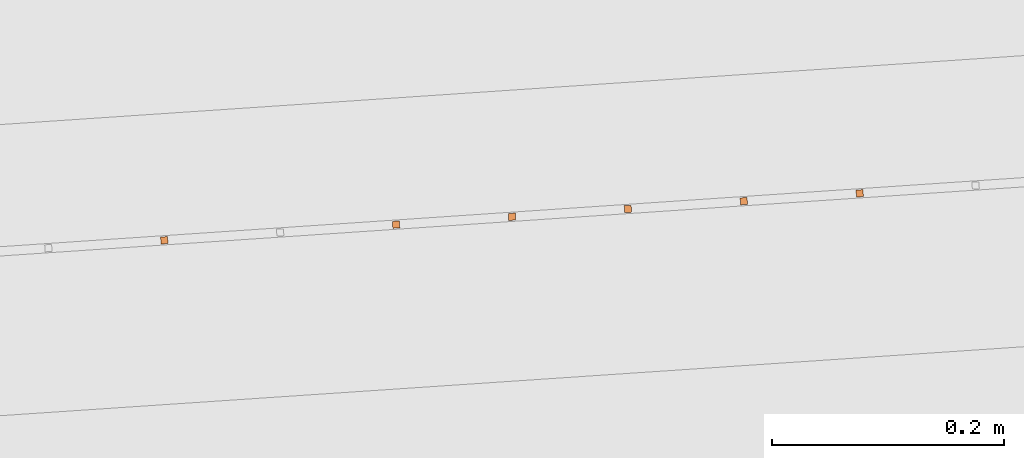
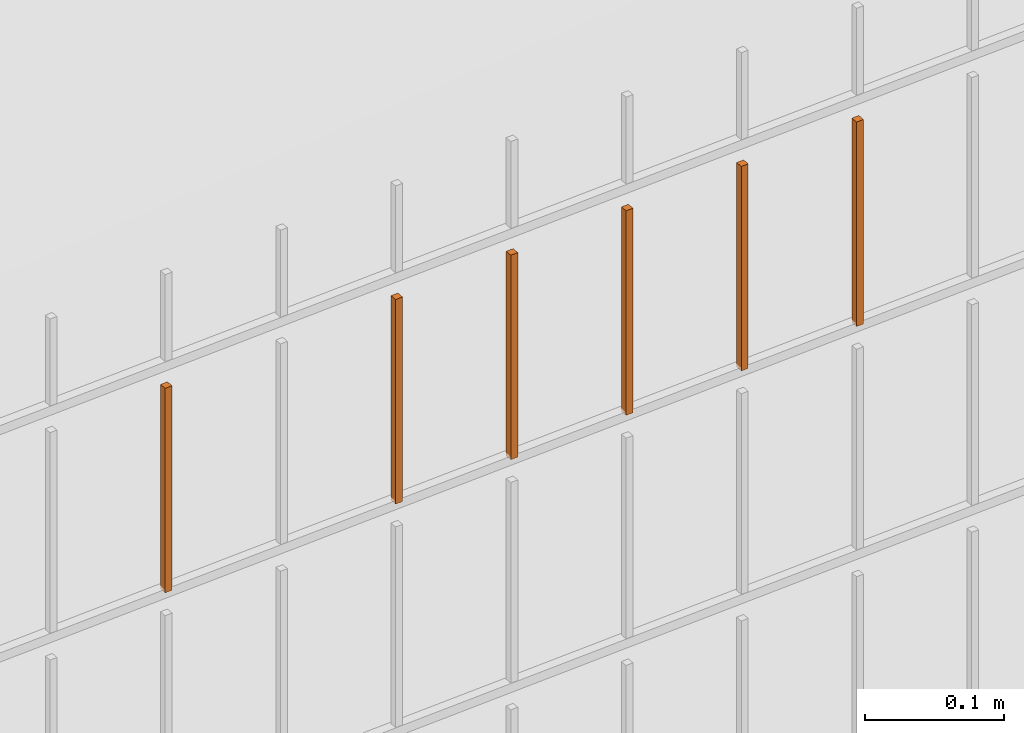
# One storey, part 273 of 1809: 6 proxies, 1 element without a shape of its own.
"""IFC2X3 building model written with IfcOpenShell, lengths in millimetres."""

import ifcopenshell
import ifcopenshell.guid

model = None  # the IFC model being written
_history = None  # IfcOwnerHistory: only IFC2X3 demands one
_inside = {}  # id of a spatial element -> (the spatial element, [elements in it])
_under = {}  # id of a project, library or spatial element -> (it, [spatial elements below it])
_declared = {}  # id of a project -> (the project, [libraries it declares])
_typed = {}  # id of a type object -> (the type object, [elements of that type])
_made_of = {}  # id of a material, layer set ... -> (it, [elements and type objects made of it])


def new_model(schema):
    """Start an empty IFC model of exactly this schema.

    Asked for "IFC4X3", IfcOpenShell would pick the latest addendum, in which some entities
    have other attributes; the version numbers below select the first issue.
    IFC2X3 requires an IfcOwnerHistory on every rooted entity: one is made here for all.
    """
    global model, _history
    if schema == "IFC4X3":
        model = ifcopenshell.file(schema_version=(4, 3, 0, 0))
    else:
        model = ifcopenshell.file(schema=schema)
    _inside.clear()
    _under.clear()
    _declared.clear()
    _typed.clear()
    _made_of.clear()
    _history = None
    if model.schema == "IFC2X3":
        org = make("IfcOrganization", Name="unknown")
        user = make(
            "IfcPersonAndOrganization",
            ThePerson=make("IfcPerson", FamilyName="unknown"),
            TheOrganization=org,
        )
        app = make(
            "IfcApplication",
            ApplicationDeveloper=org,
            Version="unknown",
            ApplicationFullName="unknown",
            ApplicationIdentifier="unknown",
        )
        _history = make(
            "IfcOwnerHistory",
            OwningUser=user,
            OwningApplication=app,
            ChangeAction="ADDED",
            CreationDate=0,
        )
    return model


def make(cls, **values):
    """One entity of the class cls with the attributes given. An attribute that is None is left unset."""
    return model.create_entity(
        cls, **{name: value for name, value in values.items() if value is not None}
    )


def entity(cls, *values):
    """Any entity or typed value of the class cls, its attributes in the order of the schema. None: left unset."""
    e = model.create_entity(cls)
    for i, value in enumerate(values):
        if value is not None:
            e[i] = value
    return e


def rooted(cls, **values):
    """An entity with a GlobalId (a new one), such as an element, a storey or a relation."""
    return make(cls, GlobalId=ifcopenshell.guid.new(), OwnerHistory=_history, **values)


def si_unit(unit_type, name, prefix=None):
    """IfcSIUnit, for example si_unit("LENGTHUNIT", "METRE", prefix="MILLI")."""
    return make("IfcSIUnit", UnitType=unit_type, Prefix=prefix, Name=name)


def converted_unit(unit_type, name, factor, base, dimensions=None, offset=None):
    """IfcConversionBasedUnit, such as the inch: factor (a typed value) times the base unit."""
    return make(
        "IfcConversionBasedUnit"
        if offset is None
        else "IfcConversionBasedUnitWithOffset",
        ConversionOffset=offset,
        Dimensions=None
        if dimensions is None
        else entity("IfcDimensionalExponents", *dimensions),
        UnitType=unit_type,
        Name=name,
        ConversionFactor=make(
            "IfcMeasureWithUnit", ValueComponent=factor, UnitComponent=base
        ),
    )


def derived_unit(unit_type, elements):
    """IfcDerivedUnit: a product of units, each with its exponent."""
    return make(
        "IfcDerivedUnit",
        Elements=[
            make("IfcDerivedUnitElement", Unit=unit, Exponent=power)
            for unit, power in elements
        ],
        UnitType=unit_type,
    )


def money_unit(currency):
    """IfcMonetaryUnit."""
    return make("IfcMonetaryUnit", Currency=currency)


def assignment(units):
    """IfcUnitAssignment: the units of a project."""
    return None if units is None else make("IfcUnitAssignment", Units=units)


def point(xyz):
    """IfcCartesianPoint."""
    return None if xyz is None else make("IfcCartesianPoint", Coordinates=xyz)


def direction(xyz):
    """IfcDirection."""
    return None if xyz is None else make("IfcDirection", DirectionRatios=xyz)


def frame(location, z_axis=None, x_axis=None):
    """IfcAxis2Placement3D, a coordinate frame: its origin and axes. An axis left out is left unset."""
    return make(
        "IfcAxis2Placement3D",
        Location=point(location),
        Axis=direction(z_axis),
        RefDirection=direction(x_axis),
    )


def origin_with_axes():
    """The frame at (0, 0, 0) with the z axis (0, 0, 1) and the x axis (1, 0, 0) written out."""
    return frame((0.0, 0.0, 0.0), z_axis=(0.0, 0.0, 1.0), x_axis=(1.0, 0.0, 0.0))


def place(relative_to, where):
    """IfcLocalPlacement: puts the frame where relative to a parent placement (None: the world)."""
    return make(
        "IfcLocalPlacement", PlacementRelTo=relative_to, RelativePlacement=where
    )


def context(
    kind, dimensions, precision=None, world=None, true_north=None, identifier=None
):
    """IfcGeometricRepresentationContext, for example the 3D "Model" context."""
    return make(
        "IfcGeometricRepresentationContext",
        ContextIdentifier=identifier,
        ContextType=kind,
        CoordinateSpaceDimension=dimensions,
        Precision=precision,
        WorldCoordinateSystem=world,
        TrueNorth=true_north,
    )


def subcontext(parent, identifier, kind, view, scale=None):
    """IfcGeometricRepresentationSubContext, for example "Body" below "Model"."""
    return make(
        "IfcGeometricRepresentationSubContext",
        ContextIdentifier=identifier,
        ContextType=kind,
        ParentContext=parent,
        TargetScale=scale,
        TargetView=view,
    )


def project(units=None, contexts=None):
    """IfcProject with its units and contexts."""
    return rooted(
        "IfcProject",
        Name="project",
        RepresentationContexts=contexts,
        UnitsInContext=assignment(units),
    )


def spatial(cls, under=None, at=None, **own):
    """A site, building, storey or space (cls), placed at a placement, below another one or the project."""
    s = rooted(cls, ObjectPlacement=at, **own)
    if under is not None:
        _under.setdefault(under.id(), (under, []))[1].append(s)
    return s


def faces_of(points, faces, orient=None, outer=None):
    """IfcFace entities. A face is a list of loops; a loop is a list of indices into points, from 0.

    orient and outer hold one flag for each loop. By default every Orientation is true, the
    first loop of a face is its IfcFaceOuterBound and the others are IfcFaceBound.
    """
    made = []
    for i, loops in enumerate(faces):
        bounds = []
        for j, loop in enumerate(loops):
            is_outer = j == 0 if outer is None else outer[i][j]
            bounds.append(
                make(
                    "IfcFaceOuterBound" if is_outer else "IfcFaceBound",
                    Bound=make("IfcPolyLoop", Polygon=[points[k] for k in loop]),
                    Orientation=True if orient is None else orient[i][j],
                )
            )
        made.append(make("IfcFace", Bounds=bounds))
    return made


def faceted_brep(points, faces, orient=None, outer=None, voids=None):
    """IfcFacetedBrep: a solid bounded by flat faces; with voids (closed shells), ...WithVoids."""
    shared = [point(p) for p in points]
    hull = make("IfcClosedShell", CfsFaces=faces_of(shared, faces, orient, outer))
    if voids is None:
        return make("IfcFacetedBrep", Outer=hull)
    return make(
        "IfcFacetedBrepWithVoids",
        Outer=hull,
        Voids=[
            make(cls, CfsFaces=faces_of(shared, fs, o, b)) for cls, fs, o, b in voids
        ],
    )


def shape(context_of_items, identifier, shape_type, items):
    """IfcShapeRepresentation: the items that make up one representation, for example the "Body"."""
    return make(
        "IfcShapeRepresentation",
        ContextOfItems=context_of_items,
        RepresentationIdentifier=identifier,
        RepresentationType=shape_type,
        Items=items,
    )


def source(mapping_origin, context_of_items, identifier, shape_type, items):
    """IfcRepresentationMap: a shape defined once, which mapped items show again and again."""
    return make(
        "IfcRepresentationMap",
        MappingOrigin=mapping_origin,
        MappedRepresentation=shape(context_of_items, identifier, shape_type, items),
    )


def transform(
    local_origin,
    x_axis=None,
    y_axis=None,
    z_axis=None,
    scale=None,
    scale2=None,
    scale3=None,
    uniform=True,
):
    """IfcCartesianTransformationOperator3D, or its non-uniform kind. x_axis, y_axis, z_axis: its Axis1, 2, 3."""
    if uniform:
        return make(
            "IfcCartesianTransformationOperator3D",
            Axis1=direction(x_axis),
            Axis2=direction(y_axis),
            LocalOrigin=point(local_origin),
            Scale=scale,
            Axis3=direction(z_axis),
        )
    return make(
        "IfcCartesianTransformationOperator3DnonUniform",
        Axis1=direction(x_axis),
        Axis2=direction(y_axis),
        LocalOrigin=point(local_origin),
        Scale=scale,
        Axis3=direction(z_axis),
        Scale2=scale2,
        Scale3=scale3,
    )


def mapped(mapping_source, mapping_target):
    """IfcMappedItem: shows the shape of a source again, moved by a transform."""
    return make(
        "IfcMappedItem", MappingSource=mapping_source, MappingTarget=mapping_target
    )


def material(Name=None, Category=None):
    """IfcMaterial."""
    return make("IfcMaterial", Name=Name, Category=Category)


def made_of(thing, what):
    """Note that an element or type object is made of a material, layer set ...; save() writes the relation."""
    if what is not None:
        _made_of.setdefault(what.id(), (what, []))[1].append(thing)
    return thing


def type_object(cls, material=None, **own):
    """A type object (cls), such as IfcWallType, which elements share."""
    return made_of(rooted(cls, **own), material)


def element(
    cls,
    number,
    at=None,
    inside=None,
    cuts=None,
    type_object=None,
    material=None,
    context=None,
    identifier="Body",
    shape_type=None,
    held_by="IfcProductDefinitionShape",
    body=None,
    shapes=None,
    **own,
):
    """One element of the class cls, such as IfcWall. Its Tag is "e" and its number.

    at: its placement. inside: the storey or other place that contains it. cuts: it is an
    opening in that element (IfcRelVoidsElement). A single representation is given by context,
    identifier, shape_type and body (its items); several are given by shapes. held_by: the class
    of the entity that holds the representations. save() writes the other relations.
    """
    e = rooted(cls, Tag="e%d" % number, ObjectPlacement=at, **own)
    if body is not None:
        shapes = [shape(context, identifier, shape_type, body)]
    if shapes is not None:
        e.Representation = make(held_by, Representations=shapes)
    if inside is not None:
        _inside.setdefault(inside.id(), (inside, []))[1].append(e)
    if cuts is not None:
        rooted(
            "IfcRelVoidsElement", RelatingBuildingElement=cuts, RelatedOpeningElement=e
        )
    if type_object is not None:
        _typed.setdefault(type_object.id(), (type_object, []))[1].append(e)
    return made_of(e, material)


def aggregate(whole, parts):
    """IfcRelAggregates: a whole, such as a stair, and the parts it consists of."""
    return rooted("IfcRelAggregates", RelatingObject=whole, RelatedObjects=parts)


def save(model, path):
    """Write the relations noted so far, then the file.

    IfcRelAggregates (storeys below a building ...), IfcRelContainedInSpatialStructure (elements
    in a storey), IfcRelDefinesByType, IfcRelAssociatesMaterial and IfcRelDeclares: one each for
    every whole, place, type object, material and project.
    """
    for whole, parts in _under.values():
        aggregate(whole, parts)
    for where, things in _inside.values():
        rooted(
            "IfcRelContainedInSpatialStructure",
            RelatedElements=things,
            RelatingStructure=where,
        )
    for kind, things in _typed.values():
        rooted("IfcRelDefinesByType", RelatedObjects=things, RelatingType=kind)
    for what, things in _made_of.values():
        rooted("IfcRelAssociatesMaterial", RelatedObjects=things, RelatingMaterial=what)
    for by, libraries in _declared.values():
        rooted("IfcRelDeclares", RelatingContext=by, RelatedDefinitions=libraries)
    model.write(path)


model = new_model("IFC2X3")

# Units and contexts
model_context = context("Model", 3, precision=0.01, world=origin_with_axes(), true_north=direction((0.0, 1.0)))
body_context = subcontext(model_context, "Body", "Model", "MODEL_VIEW")
ifc_project = project(units=[si_unit("LENGTHUNIT", "METRE", prefix="MILLI"), si_unit("AREAUNIT", "SQUARE_METRE"), si_unit("VOLUMEUNIT", "CUBIC_METRE"), converted_unit("PLANEANGLEUNIT", "DEGREE", entity("IfcPlaneAngleMeasure", 0.0174532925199), si_unit("PLANEANGLEUNIT", "RADIAN"), dimensions=[0, 0, 0, 0, 0, 0, 0]), si_unit("SOLIDANGLEUNIT", "STERADIAN"), money_unit("EUR"), converted_unit("TIMEUNIT", "Year", entity("IfcTimeMeasure", 31556926.0), si_unit("TIMEUNIT", "SECOND"), dimensions=[0, 0, 1, 0, 0, 0, 0]), si_unit("MASSUNIT", "GRAM", prefix="KILO"), si_unit("THERMODYNAMICTEMPERATUREUNIT", "DEGREE_CELSIUS"), si_unit("LUMINOUSINTENSITYUNIT", "LUMEN"), si_unit("ENERGYUNIT", "JOULE", prefix="MEGA"), derived_unit("THERMALCONDUCTANCEUNIT", [(si_unit("POWERUNIT", "WATT"), 1), (si_unit("LENGTHUNIT", "METRE"), -1), (si_unit("THERMODYNAMICTEMPERATUREUNIT", "KELVIN"), -1)]), derived_unit("SPECIFICHEATCAPACITYUNIT", [(si_unit("ENERGYUNIT", "JOULE"), 1), (si_unit("MASSUNIT", "GRAM", prefix="KILO"), -1), (si_unit("THERMODYNAMICTEMPERATUREUNIT", "KELVIN"), -1)]), derived_unit("MASSDENSITYUNIT", [(si_unit("MASSUNIT", "GRAM", prefix="KILO"), 1), (si_unit("VOLUMEUNIT", "CUBIC_METRE"), -1)])], contexts=[model_context])

# Site, building, storey
site_placement = place(None, origin_with_axes())
site = spatial("IfcSite", under=ifc_project, at=site_placement, Name="Politse- ja Piirivalveameti ning Päästeameti ühishoone", CompositionType="ELEMENT")
building_placement = place(site_placement, origin_with_axes())
building = spatial("IfcBuilding", under=site, at=building_placement, Name="Politse- ja Piirivalveameti ning Päästeameti ühishoone", CompositionType="ELEMENT")
storey_placement = place(building_placement, origin_with_axes())
storey = spatial("IfcBuildingStorey", under=building, at=storey_placement, Name="Esimene korrus", CompositionType="ELEMENT", Elevation=0.0)

# Proxies
building_element_proxy_type_1 = type_object("IfcBuildingElementProxyType", Name="Railing Type", PredefinedType="NOTDEFINED")
proxy_1_placement = place(storey_placement, frame((89252.001212, -29183.4766571, 203.661247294), z_axis=(0.0, 0.0, 1.0), x_axis=(1.0, 0.0, 0.0)))
proxy_1 = element("IfcBuildingElementProxy", 1, at=proxy_1_placement, inside=storey, type_object=building_element_proxy_type_1, Name="PIIRDEAED")
ifc_material = material(Name="ET-03_Raud")
building_element_proxy_type_2 = type_object("IfcBuildingElementProxyType", Name="IfcBuildingElementProxy", PredefinedType="NOTDEFINED")
shared_shape_1 = source(origin_with_axes(), body_context, "Body", "Brep", [
    faceted_brep([(3.0, 3.0, -0.000752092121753), (-3.0, 3.0, -0.000752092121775), (-3.0, 3.0, 179.99926046), (3.0, 3.0, 179.99926046), (3.0, -3.0, 0.000752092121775), (-3.0, -3.0, 0.000752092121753), (-3.0, -3.0, 180.000764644), (3.0, -3.0, 180.000764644)], [[[0, 1, 2, 3]], [[0, 4, 5, 1]], [[1, 5, 6, 2]], [[3, 2, 6, 7]], [[4, 0, 3, 7]], [[5, 4, 7, 6]]]),
])
proxy_2_placement = place(proxy_1_placement, frame((-53604.5419687, -20918.5592753, 1813.76524593), z_axis=(0.0, 0.0, 1.0), x_axis=(1.0, 0.0, 0.0)))
proxy_2 = element("IfcBuildingElementProxy", 2, at=proxy_2_placement, type_object=building_element_proxy_type_2, material=ifc_material, Name="BALUSTER - 001", context=body_context, shape_type="MappedRepresentation", body=[
    mapped(shared_shape_1, transform((0.0, 0.0, 0.0), x_axis=(-0.0673926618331, 0.997726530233, 0.0), y_axis=(-0.997726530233, -0.0673926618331, 0.0), z_axis=(0.0, 0.0, 1.0))),
])
proxy_3_placement = place(proxy_1_placement, frame((-53704.3146217, -20925.2985415, 1813.74017619), z_axis=(0.0, 0.0, 1.0), x_axis=(1.0, 0.0, 0.0)))
proxy_3 = element("IfcBuildingElementProxy", 3, at=proxy_3_placement, type_object=building_element_proxy_type_2, material=ifc_material, Name="BALUSTER - 001", context=body_context, shape_type="MappedRepresentation", body=[
    mapped(shared_shape_1, transform((0.0, 0.0, 0.0), x_axis=(-0.0673926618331, 0.997726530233, 0.0), y_axis=(-0.997726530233, -0.0673926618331, 0.0), z_axis=(0.0, 0.0, 1.0))),
])
shared_shape_2 = source(origin_with_axes(), body_context, "Body", "Brep", [
    faceted_brep([(3.0, 3.0, -0.000752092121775), (-3.0, 3.0, -0.000752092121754), (-3.0, 3.0, 179.99926046), (3.0, 3.0, 179.99926046), (3.0, -3.0, 0.000752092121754), (-3.0, -3.0, 0.000752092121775), (-3.0, -3.0, 180.000764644), (3.0, -3.0, 180.000764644)], [[[0, 1, 2, 3]], [[0, 4, 5, 1]], [[1, 5, 6, 2]], [[3, 2, 6, 7]], [[4, 0, 3, 7]], [[5, 4, 7, 6]]]),
])
proxy_4_placement = place(proxy_1_placement, frame((-53504.7693157, -20911.8200092, 1813.79031566), z_axis=(0.0, 0.0, 1.0), x_axis=(1.0, 0.0, 0.0)))
proxy_4 = element("IfcBuildingElementProxy", 4, at=proxy_4_placement, type_object=building_element_proxy_type_2, material=ifc_material, Name="BALUSTER - 001", context=body_context, shape_type="MappedRepresentation", body=[
    mapped(shared_shape_2, transform((0.0, 0.0, 0.0), x_axis=(-0.0673926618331, 0.997726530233, 0.0), y_axis=(-0.997726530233, -0.0673926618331, 0.0), z_axis=(0.0, 0.0, 1.0))),
])
shared_shape_3 = source(origin_with_axes(), body_context, "Body", "Brep", [
    faceted_brep([(3.0, 3.0, -0.000752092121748), (-3.0, 3.0, -0.00075209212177), (-3.0, 3.0, 179.99926046), (3.0, 3.0, 179.99926046), (3.0, -3.0, 0.00075209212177), (-3.0, -3.0, 0.000752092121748), (-3.0, -3.0, 180.000764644), (3.0, -3.0, 180.000764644)], [[[0, 1, 2, 3]], [[0, 4, 5, 1]], [[1, 5, 6, 2]], [[3, 2, 6, 7]], [[4, 0, 3, 7]], [[5, 4, 7, 6]]]),
])
proxy_5_placement = place(proxy_1_placement, frame((-53804.0872747, -20932.0378077, 1813.71510645), z_axis=(0.0, 0.0, 1.0), x_axis=(1.0, 0.0, 0.0)))
proxy_5 = element("IfcBuildingElementProxy", 5, at=proxy_5_placement, type_object=building_element_proxy_type_2, material=ifc_material, Name="BALUSTER - 001", context=body_context, shape_type="MappedRepresentation", body=[
    mapped(shared_shape_3, transform((0.0, 0.0, 0.0), x_axis=(-0.0673926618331, 0.997726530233, 0.0), y_axis=(-0.997726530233, -0.0673926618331, 0.0), z_axis=(0.0, 0.0, 1.0))),
])
shared_shape_4 = source(origin_with_axes(), body_context, "Body", "Brep", [
    faceted_brep([(3.0, 3.0, -0.000752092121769), (-3.0, 3.0, -0.00075209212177), (-3.0, 3.0, 179.99926046), (3.0, 3.0, 179.99926046), (3.0, -3.0, 0.00075209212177), (-3.0, -3.0, 0.000752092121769), (-3.0, -3.0, 180.000764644), (3.0, -3.0, 180.000764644)], [[[0, 1, 2, 3]], [[0, 4, 5, 1]], [[1, 5, 6, 2]], [[3, 2, 6, 7]], [[4, 0, 3, 7]], [[5, 4, 7, 6]]]),
])
proxy_6_placement = place(proxy_1_placement, frame((-54103.4052338, -20952.2556063, 1813.63989724), z_axis=(0.0, 0.0, 1.0), x_axis=(1.0, 0.0, 0.0)))
proxy_6 = element("IfcBuildingElementProxy", 6, at=proxy_6_placement, type_object=building_element_proxy_type_2, material=ifc_material, Name="BALUSTER - 001", context=body_context, shape_type="MappedRepresentation", body=[
    mapped(shared_shape_4, transform((0.0, 0.0, 0.0), x_axis=(-0.0673926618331, 0.997726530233, 0.0), y_axis=(-0.997726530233, -0.0673926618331, 0.0), z_axis=(0.0, 0.0, 1.0))),
])
shared_shape_5 = source(origin_with_axes(), body_context, "Body", "Brep", [
    faceted_brep([(3.0, 3.0, -0.000752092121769), (-3.0, 3.0, -0.00075209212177), (-3.0, 3.0, 179.99926046), (3.0, 3.0, 179.99926046), (3.0, -3.0, 0.00075209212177), (-3.0, -3.0, 0.000752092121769), (-3.0, -3.0, 180.000764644), (3.0, -3.0, 180.000764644)], [[[0, 1, 2, 3]], [[0, 4, 5, 1]], [[1, 5, 6, 2]], [[3, 2, 6, 7]], [[4, 0, 3, 7]], [[5, 4, 7, 6]]]),
])
proxy_7_placement = place(proxy_1_placement, frame((-53903.8599278, -20938.7770739, 1813.69003671), z_axis=(0.0, 0.0, 1.0), x_axis=(1.0, 0.0, 0.0)))
proxy_7 = element("IfcBuildingElementProxy", 7, at=proxy_7_placement, type_object=building_element_proxy_type_2, material=ifc_material, Name="BALUSTER - 001", context=body_context, shape_type="MappedRepresentation", body=[
    mapped(shared_shape_5, transform((0.0, 0.0, 0.0), x_axis=(-0.0673926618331, 0.997726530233, 0.0), y_axis=(-0.997726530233, -0.0673926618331, 0.0), z_axis=(0.0, 0.0, 1.0))),
])
aggregate(proxy_1, [proxy_4, proxy_2, proxy_3, proxy_5, proxy_7, proxy_6])

save(model, "model.ifc")
